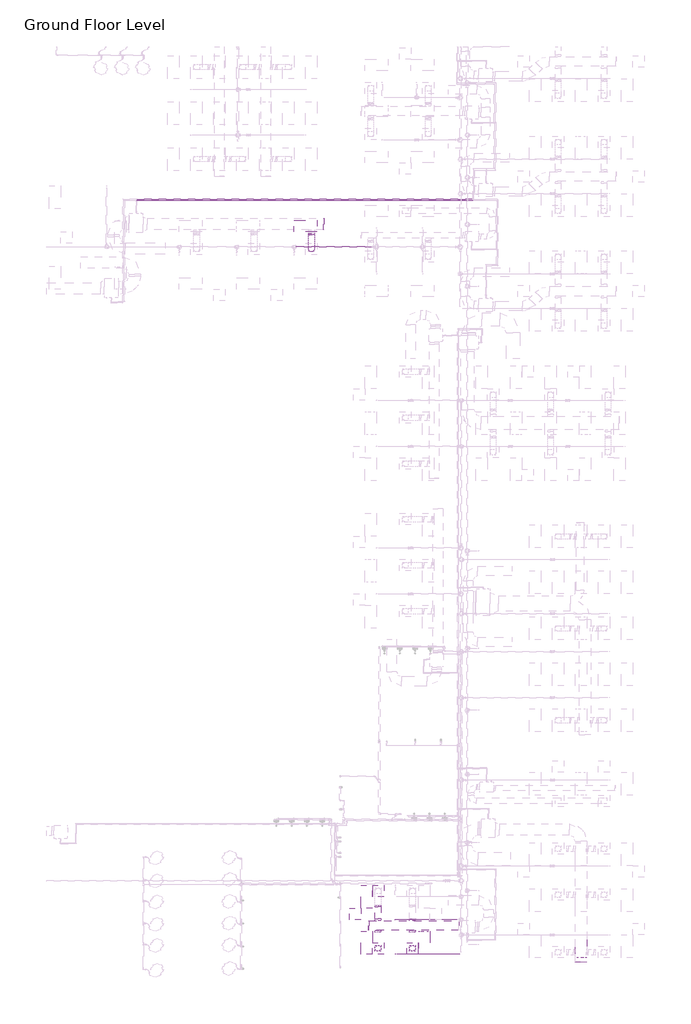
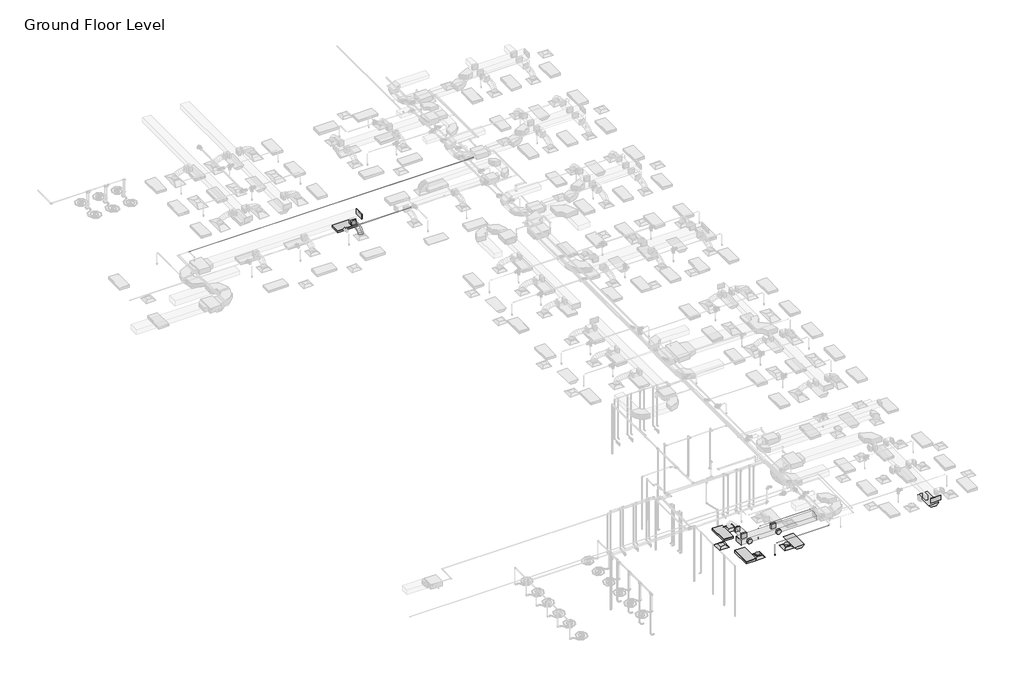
# One storey, part 14 of 75: 11 duct fittings, 7 pipe segments, 5 duct segments, 5 light fixtures, 4 air terminals, 2 fire suppression terminals.
"""IFC4 building model written with IfcOpenShell, lengths in millimetres."""

from ifc_helpers import new_model, si_unit, point, frame, frame_2d, origin, place, context, project, spatial, polyline, circle_curve, ellipse_curve, trimmed, segment, composite_curve, outline, extrude, transform, mapped, element, save
from ifc_brep_helpers import plane_surface, cylinder_surface, advanced_brep
from components import m_return_diffuser_600_x_600_face_300_x_300_connection_ff221211, m_rectangular_endcap_standard_72d4d00d, m_rectangular_endcap_standard_0f0ff112, m_rectangular_takeoff_standard_2be5eba1, m_rectangular_to_round_transition_angle_45_degree_641efff0, m_round_takeoff_standard_603b0510, m_sprinkler_dry_pendent_hosted_15_mm_dry_pendent_9bda8e11, m_emergency_recessed_lighting_fixture_600x1200_277_5b10b25d, m_troffer_light_parabolic_rectangular1_0600x1200mm_4_lamp_86473d4a

model = new_model("IFC4")

# Units and contexts
model_context = context("Model", 3, world=origin())
ifc_project = project(units=[si_unit("LENGTHUNIT", "METRE", prefix="MILLI")], contexts=[model_context])

# Site, building, storey
site = spatial("IfcSite", under=ifc_project)
building = spatial("IfcBuilding", under=site)
storey = spatial("IfcBuildingStorey", under=building, Name="Ground Floor Level", Elevation=900.0)

# Air terminals
placement = place(None, origin())
m_return_diffuser_600_x_600_face_300_x_300_connection_shape = m_return_diffuser_600_x_600_face_300_x_300_connection_ff221211(model_context)
element("IfcAirTerminal", 1, ObjectType="M_Return Diffuser : 600 x 600 Face 300 x 300 Connection", at=placement, inside=storey, context=model_context, shape_type="MappedRepresentation", body=[
    mapped(m_return_diffuser_600_x_600_face_300_x_300_connection_shape, transform((142.7672394, -37764.7846466, 3650.0), x_axis=(1.0, 0.0, 0.0), y_axis=(0.0, 1.0, 0.0), z_axis=(0.0, 0.0, 1.0))),
])
element("IfcAirTerminal", 2, ObjectType="M_Supply Diffuser : 600 x 600 Face 300 x 300 Connection", at=placement, inside=storey, context=model_context, shape_type="MappedRepresentation", body=[
    mapped(m_return_diffuser_600_x_600_face_300_x_300_connection_shape, transform((1342.7672394, -36564.7846466, 3650.0), x_axis=(1.0, 0.0, 0.0), y_axis=(0.0, 1.0, 0.0), z_axis=(0.0, 0.0, 1.0))),
])
element("IfcAirTerminal", 3, ObjectType="M_Supply Diffuser : 600 x 600 Face 300 x 300 Connection", at=placement, inside=storey, context=model_context, shape_type="MappedRepresentation", body=[
    mapped(m_return_diffuser_600_x_600_face_300_x_300_connection_shape, transform((1342.7672394, -39564.7846466, 3650.0), x_axis=(1.0, 0.0, 0.0), y_axis=(0.0, 1.0, 0.0), z_axis=(0.0, 0.0, 1.0))),
])
element("IfcAirTerminal", 4, ObjectType="M_Supply Diffuser : 600 x 600 Face 300 x 300 Connection", at=placement, inside=storey, context=model_context, shape_type="MappedRepresentation", body=[
    mapped(m_return_diffuser_600_x_600_face_300_x_300_connection_shape, transform((3142.7672394, -39564.7846466, 3650.0), x_axis=(1.0, 0.0, 0.0), y_axis=(0.0, 1.0, 0.0), z_axis=(0.0, 0.0, 1.0))),
])

# Duct fittings
m_rectangular_endcap_standard_shape = m_rectangular_endcap_standard_72d4d00d(model_context)
element("IfcDuctFitting", 5, ObjectType="M_Rectangular Endcap : Standard", at=placement, inside=storey, context=model_context, shape_type="MappedRepresentation", body=[
    mapped(m_rectangular_endcap_standard_shape, transform((877.3672394, -38372.6128682, 4100.0), x_axis=(-0.9999999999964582, 0.0, -2.6615447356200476e-06), y_axis=(0.0, -1.0000000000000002, 0.0), z_axis=(-2.6615447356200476e-06, 0.0, 0.9999999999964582))),
])
m_rectangular_endcap_standard_2_shape = m_rectangular_endcap_standard_0f0ff112(model_context)
element("IfcDuctFitting", 6, ObjectType="M_Rectangular Endcap : Standard", at=placement, inside=storey, context=model_context, shape_type="MappedRepresentation", body=[
    mapped(m_rectangular_endcap_standard_2_shape, transform((-1501.8327605, -1768.2846466, 4099.9873731), x_axis=(0.9999999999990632, 0.0, -1.368824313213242e-06), y_axis=(0.0, 1.0, 0.0), z_axis=(1.368824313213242e-06, 0.0, 0.9999999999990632))),
])
element("IfcDuctFitting", 7, ObjectType="M_Rectangular Endcap : Standard", at=placement, inside=storey, context=model_context, shape_type="MappedRepresentation", body=[
    mapped(m_rectangular_endcap_standard_2_shape, transform((11933.8644074, -40264.7726336, 4099.9875), x_axis=(0.0, -1.0, 0.0), y_axis=(1.0, 0.0, 0.0), z_axis=(0.0, 0.0, 1.0))),
])
m_rectangular_takeoff_standard_shape = m_rectangular_takeoff_standard_2be5eba1(model_context)
element("IfcDuctFitting", 8, ObjectType="M_Rectangular Takeoff : Standard", at=placement, inside=storey, context=model_context, shape_type="MappedRepresentation", body=[
    mapped(m_rectangular_takeoff_standard_shape, transform((3142.7672394, -38122.6128682, 4100.0), x_axis=(0.0, 1.0, 0.0), y_axis=(1.0, 0.0, 0.0), z_axis=(0.0, 0.0, -1.0))),
])
element("IfcDuctFitting", 9, ObjectType="M_Rectangular Takeoff : Standard", at=placement, inside=storey, context=model_context, shape_type="MappedRepresentation", body=[
    mapped(m_rectangular_takeoff_standard_shape, transform((1342.7672394, -38122.6128682, 4100.0), x_axis=(0.0, 1.0, 0.0), y_axis=(1.0, 0.0, 0.0), z_axis=(0.0, 0.0, -1.0))),
])
m_rectangular_to_round_transition_angle_45_degree_shape = m_rectangular_to_round_transition_angle_45_degree_641efff0(model_context)
element("IfcDuctFitting", 10, ObjectType="M_Rectangular to Round Transition - Angle : 45 Degree", at=placement, inside=storey, context=model_context, shape_type="MappedRepresentation", body=[
    mapped(m_rectangular_to_round_transition_angle_45_degree_shape, transform((-2137.2327605, -2237.4369582, 4099.9882429), x_axis=(0.0, -1.0, 0.0), y_axis=(1.0, 0.0, 0.0), z_axis=(0.0, 0.0, 1.0))),
])
element("IfcDuctFitting", 11, ObjectType="M_Rectangular to Round Transition - Angle : 45 Degree", at=placement, inside=storey, context=model_context, shape_type="MappedRepresentation", body=[
    mapped(m_rectangular_to_round_transition_angle_45_degree_shape, transform((1342.7672394, -39564.7846466, 3751.6), x_axis=(0.0, 0.0, 1.0), y_axis=(-1.0, 0.0, 0.0), z_axis=(0.0, -1.0, 0.0))),
])
element("IfcDuctFitting", 12, ObjectType="M_Rectangular to Round Transition - Angle : 45 Degree", at=placement, inside=storey, context=model_context, shape_type="MappedRepresentation", body=[
    mapped(m_rectangular_to_round_transition_angle_45_degree_shape, transform((3142.7672394, -39564.7846466, 3751.6), x_axis=(0.0, 0.0, 1.0), y_axis=(-1.0, 0.0, 0.0), z_axis=(0.0, -1.0, 0.0))),
])
element("IfcDuctFitting", 13, ObjectType="M_Rectangular to Round Transition - Angle : 45 Degree", at=placement, inside=storey, context=model_context, shape_type="MappedRepresentation", body=[
    mapped(m_rectangular_to_round_transition_angle_45_degree_shape, transform((1342.7672394, -37392.1205779, 4100.0), x_axis=(0.0, 1.0, 0.0), y_axis=(-1.0, 0.0, 0.0), z_axis=(0.0, 0.0, 1.0))),
])
m_round_takeoff_standard_shape = m_round_takeoff_standard_603b0510(model_context)
element("IfcDuctFitting", 14, ObjectType="M_Round Takeoff : Standard", at=placement, inside=storey, context=model_context, shape_type="MappedRepresentation", body=[
    mapped(m_round_takeoff_standard_shape, transform((1342.7672394, -38622.6128682, 4100.0), x_axis=(0.0, -1.0, 0.0), y_axis=(-1.0, 0.0, 0.0), z_axis=(0.0, 0.0, -1.0))),
])
element("IfcDuctFitting", 15, ObjectType="M_Round Takeoff : Standard", at=placement, inside=storey, context=model_context, shape_type="MappedRepresentation", body=[
    mapped(m_round_takeoff_standard_shape, transform((3142.7672394, -38622.6128682, 4100.0), x_axis=(0.0, -1.0, 0.0), y_axis=(-1.0, 0.0, 0.0), z_axis=(0.0, 0.0, -1.0))),
])

# Duct segments
element("IfcDuctSegment", 16, ObjectType="Flex - Round", at=placement, inside=storey, context=model_context, shape_type="AdvancedBrep", body=[
    advanced_brep(
    [(-1987.2327605, -3064.7846466, 3826.6), (-2137.2327605, -3214.7846466, 3826.6), (-2287.2327605, -3064.7846466, 3826.6), (-2137.2327605, -2914.7846466, 3826.6), (-1987.2327605, -3064.7846466, 3857.9382049), (-2137.2327605, -3214.7846466, 3883.5820304), (-2287.2327605, -3064.7846466, 3857.9382049), (-2137.2327605, -2914.7846466, 3832.2943795), (-1987.2327605, -3047.768388, 3906.2507872), (-2137.2327605, -3181.5056265, 3978.0678652), (-2287.2327605, -3047.768388, 3906.2507872), (-2137.2327605, -2914.0311496, 3834.4337093), (-1987.2327605, -3000.5836201, 3968.710775), (-2137.2327605, -3104.787507, 4079.622096), (-2287.2327605, -3000.5836201, 3968.710775), (-2137.2327605, -2896.3797333, 3857.7994541), (-1987.2327605, -2929.0263545, 4016.0680579), (-2137.2327605, -2997.957239, 4150.3233892), (-2287.2327605, -2929.0263545, 4016.0680579), (-2137.2327605, -2860.09547, 3881.8127266), (-1987.2327605, -2838.8926027, 4050.4107303), (-2137.2327605, -2882.4498996, 4194.3338808), (-2287.2327605, -2838.8926027, 4050.4107303), (-2137.2327605, -2795.3353058, 3906.4875799), (-1987.2327605, -2735.9783764, 4073.8268868), (-2137.2327605, -2762.5360145, 4221.6179832), (-2287.2327605, -2735.9783764, 4073.8268868), (-2137.2327605, -2709.4207382, 3926.0357904), (-1987.2327605, -2626.0796872, 4088.4046218), (-2137.2327605, -2641.2277335, 4237.7091667), (-2287.2327605, -2626.0796872, 4088.4046218), (-2137.2327605, -2610.9316408, 3939.1000769), (-1987.2327605, -2514.9925467, 4096.2320299), (-2137.2327605, -2522.4956529, 4246.0752516), (-2287.2327605, -2514.9925467, 4096.2320299), (-2137.2327605, -2507.4894404, 3946.3888082), (-1987.2327605, -2408.5129665, 4099.3972054), (-2137.2327605, -2411.2031539, 4249.3834943), (-2287.2327605, -2408.5129665, 4099.3972054), (-2137.2327605, -2405.822779, 3949.4109165), (-1987.2327605, -2312.4369582, 4099.9882429), (-2137.2327605, -2311.5142102, 3949.9910811), (-2287.2327605, -2312.4369582, 4099.9882429), (-2137.2327605, -2313.3597063, 4249.9854047)],
    [
        (0, 1, circle_curve(frame((-2137.2327605, -3064.7846466, 3826.6), z_axis=(0.0, 0.0, -1.0), x_axis=(1.0, 0.0, 0.0)), 150.0)),
        (1, 2, circle_curve(frame((-2137.2327605, -3064.7846466, 3826.6), z_axis=(0.0, 0.0, -1.0), x_axis=(1.0, 0.0, 0.0)), 150.0)),
        (2, 3, circle_curve(frame((-2137.2327605, -3064.7846466, 3826.6), z_axis=(0.0, 0.0, -1.0), x_axis=(1.0, 0.0, 0.0)), 150.0)),
        (3, 0, circle_curve(frame((-2137.2327605, -3064.7846466, 3826.6), z_axis=(0.0, 0.0, -1.0), x_axis=(1.0, 0.0, 0.0)), 150.0)),
        (0, 4),
        (4, 5, ellipse_curve(frame((-2137.2327605, -3064.7846466, 3857.9382049), z_axis=(0.0, -0.1685139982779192, -0.9856992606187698), x_axis=(0.0, 0.9856992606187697, -0.1685139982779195)), 152.1762326, 150.0)),
        (5, 1),
        (5, 6, ellipse_curve(frame((-2137.2327605, -3064.7846466, 3857.9382049), z_axis=(0.0, -0.1685139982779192, -0.9856992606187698), x_axis=(0.0, 0.9856992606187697, -0.1685139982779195)), 152.1762326, 150.0)),
        (6, 2),
        (6, 7, ellipse_curve(frame((-2137.2327605, -3064.7846466, 3857.9382049), z_axis=(0.0, -0.1685139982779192, -0.9856992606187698), x_axis=(0.0, 0.9856992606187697, -0.1685139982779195)), 152.1762326, 150.0)),
        (7, 3),
        (7, 4, ellipse_curve(frame((-2137.2327605, -3064.7846466, 3857.9382049), z_axis=(0.0, -0.1685139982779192, -0.9856992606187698), x_axis=(0.0, 0.9856992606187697, -0.1685139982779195)), 152.1762326, 150.0)),
        (4, 8),
        (8, 9, ellipse_curve(frame((-2137.2327605, -3047.768388, 3906.2507872), z_axis=(0.0, -0.4731022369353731, -0.8810075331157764), x_axis=(0.0, 0.8810075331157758, -0.47310223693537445)), 151.8003348, 150.0)),
        (9, 5),
        (9, 10, ellipse_curve(frame((-2137.2327605, -3047.768388, 3906.2507872), z_axis=(0.0, -0.4731022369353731, -0.8810075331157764), x_axis=(0.0, 0.8810075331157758, -0.47310223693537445)), 151.8003348, 150.0)),
        (10, 6),
        (10, 11, ellipse_curve(frame((-2137.2327605, -3047.768388, 3906.2507872), z_axis=(0.0, -0.4731022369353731, -0.8810075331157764), x_axis=(0.0, 0.8810075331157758, -0.47310223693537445)), 151.8003348, 150.0)),
        (11, 7),
        (11, 8, ellipse_curve(frame((-2137.2327605, -3047.768388, 3906.2507872), z_axis=(0.0, -0.4731022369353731, -0.8810075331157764), x_axis=(0.0, 0.8810075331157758, -0.47310223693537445)), 151.8003348, 150.0)),
        (8, 12),
        (12, 13, ellipse_curve(frame((-2137.2327605, -3000.5836201, 3968.710775), z_axis=(0.0, -0.728800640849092, -0.6847259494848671), x_axis=(0.0, 0.6847259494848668, -0.7288006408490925)), 152.1833472, 150.0)),
        (13, 9),
        (13, 14, ellipse_curve(frame((-2137.2327605, -3000.5836201, 3968.710775), z_axis=(0.0, -0.728800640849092, -0.6847259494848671), x_axis=(0.0, 0.6847259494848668, -0.7288006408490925)), 152.1833472, 150.0)),
        (14, 10),
        (14, 15, ellipse_curve(frame((-2137.2327605, -3000.5836201, 3968.710775), z_axis=(0.0, -0.728800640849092, -0.6847259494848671), x_axis=(0.0, 0.6847259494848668, -0.7288006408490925)), 152.1833472, 150.0)),
        (15, 11),
        (15, 12, ellipse_curve(frame((-2137.2327605, -3000.5836201, 3968.710775), z_axis=(0.0, -0.728800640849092, -0.6847259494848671), x_axis=(0.0, 0.6847259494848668, -0.7288006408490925)), 152.1833472, 150.0)),
        (12, 16),
        (16, 17, ellipse_curve(frame((-2137.2327605, -2929.0263545, 4016.0680579), z_axis=(0.0, -0.8895967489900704, -0.456746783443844), x_axis=(0.0, 0.45674678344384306, -0.8895967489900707)), 150.917066, 150.0)),
        (17, 13),
        (17, 18, ellipse_curve(frame((-2137.2327605, -2929.0263545, 4016.0680579), z_axis=(0.0, -0.8895967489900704, -0.456746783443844), x_axis=(0.0, 0.45674678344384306, -0.8895967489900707)), 150.917066, 150.0)),
        (18, 14),
        (18, 19, ellipse_curve(frame((-2137.2327605, -2929.0263545, 4016.0680579), z_axis=(0.0, -0.8895967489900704, -0.456746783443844), x_axis=(0.0, 0.45674678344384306, -0.8895967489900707)), 150.917066, 150.0)),
        (19, 15),
        (19, 16, ellipse_curve(frame((-2137.2327605, -2929.0263545, 4016.0680579), z_axis=(0.0, -0.8895967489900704, -0.456746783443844), x_axis=(0.0, 0.45674678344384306, -0.8895967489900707)), 150.917066, 150.0)),
        (16, 20),
        (20, 21, ellipse_curve(frame((-2137.2327605, -2838.8926027, 4050.4107303), z_axis=(0.0, -0.9571272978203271, -0.2896676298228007), x_axis=(0.0, 0.28966762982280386, -0.957127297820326)), 150.369915, 150.0)),
        (21, 17),
        (21, 22, ellipse_curve(frame((-2137.2327605, -2838.8926027, 4050.4107303), z_axis=(0.0, -0.9571272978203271, -0.2896676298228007), x_axis=(0.0, 0.28966762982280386, -0.957127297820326)), 150.369915, 150.0)),
        (22, 18),
        (22, 23, ellipse_curve(frame((-2137.2327605, -2838.8926027, 4050.4107303), z_axis=(0.0, -0.9571272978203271, -0.2896676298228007), x_axis=(0.0, 0.28966762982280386, -0.957127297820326)), 150.369915, 150.0)),
        (23, 19),
        (23, 20, ellipse_curve(frame((-2137.2327605, -2838.8926027, 4050.4107303), z_axis=(0.0, -0.9571272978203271, -0.2896676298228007), x_axis=(0.0, 0.28966762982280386, -0.957127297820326)), 150.369915, 150.0)),
        (20, 24),
        (24, 25, ellipse_curve(frame((-2137.2327605, -2735.9783764, 4073.8268868), z_axis=(0.0, -0.9842352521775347, -0.1768642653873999), x_axis=(0.0, 0.1768642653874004, -0.9842352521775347)), 150.1583042, 150.0)),
        (25, 21),
        (25, 26, ellipse_curve(frame((-2137.2327605, -2735.9783764, 4073.8268868), z_axis=(0.0, -0.9842352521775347, -0.1768642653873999), x_axis=(0.0, 0.1768642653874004, -0.9842352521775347)), 150.1583042, 150.0)),
        (26, 22),
        (26, 27, ellipse_curve(frame((-2137.2327605, -2735.9783764, 4073.8268868), z_axis=(0.0, -0.9842352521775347, -0.1768642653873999), x_axis=(0.0, 0.1768642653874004, -0.9842352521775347)), 150.1583042, 150.0)),
        (27, 23),
        (27, 24, ellipse_curve(frame((-2137.2327605, -2735.9783764, 4073.8268868), z_axis=(0.0, -0.9842352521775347, -0.1768642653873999), x_axis=(0.0, 0.1768642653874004, -0.9842352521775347)), 150.1583042, 150.0)),
        (24, 28),
        (28, 29, ellipse_curve(frame((-2137.2327605, -2626.0796872, 4088.4046218), z_axis=(0.0, -0.9948925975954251, -0.10093918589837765), x_axis=(0.0, 0.10093918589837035, -0.9948925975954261)), 150.071018, 150.0)),
        (29, 25),
        (29, 30, ellipse_curve(frame((-2137.2327605, -2626.0796872, 4088.4046218), z_axis=(0.0, -0.9948925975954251, -0.10093918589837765), x_axis=(0.0, 0.10093918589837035, -0.9948925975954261)), 150.071018, 150.0)),
        (30, 26),
        (30, 31, ellipse_curve(frame((-2137.2327605, -2626.0796872, 4088.4046218), z_axis=(0.0, -0.9948925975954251, -0.10093918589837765), x_axis=(0.0, 0.10093918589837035, -0.9948925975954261)), 150.071018, 150.0)),
        (31, 27),
        (31, 28, ellipse_curve(frame((-2137.2327605, -2626.0796872, 4088.4046218), z_axis=(0.0, -0.9948925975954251, -0.10093918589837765), x_axis=(0.0, 0.10093918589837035, -0.9948925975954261)), 150.071018, 150.0)),
        (28, 32),
        (32, 33, ellipse_curve(frame((-2137.2327605, -2514.9925467, 4096.2320299), z_axis=(0.0, -0.9987486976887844, -0.050010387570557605), x_axis=(0.0, 0.05001038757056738, -0.9987486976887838)), 150.0309558, 150.0)),
        (33, 29),
        (33, 34, ellipse_curve(frame((-2137.2327605, -2514.9925467, 4096.2320299), z_axis=(0.0, -0.9987486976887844, -0.050010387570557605), x_axis=(0.0, 0.05001038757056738, -0.9987486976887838)), 150.0309558, 150.0)),
        (34, 30),
        (34, 35, ellipse_curve(frame((-2137.2327605, -2514.9925467, 4096.2320299), z_axis=(0.0, -0.9987486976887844, -0.050010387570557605), x_axis=(0.0, 0.05001038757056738, -0.9987486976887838)), 150.0309558, 150.0)),
        (35, 31),
        (35, 32, ellipse_curve(frame((-2137.2327605, -2514.9925467, 4096.2320299), z_axis=(0.0, -0.9987486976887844, -0.050010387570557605), x_axis=(0.0, 0.05001038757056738, -0.9987486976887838)), 150.0309558, 150.0)),
        (32, 36),
        (36, 37, ellipse_curve(frame((-2137.2327605, -2408.5129665, 4099.3972054), z_axis=(0.0, -0.9998391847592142, -0.017933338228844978), x_axis=(0.0, 0.017933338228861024, -0.9998391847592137)), 150.0104128, 150.0)),
        (37, 33),
        (37, 38, ellipse_curve(frame((-2137.2327605, -2408.5129665, 4099.3972054), z_axis=(0.0, -0.9998391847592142, -0.017933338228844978), x_axis=(0.0, 0.017933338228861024, -0.9998391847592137)), 150.0104128, 150.0)),
        (38, 34),
        (38, 39, ellipse_curve(frame((-2137.2327605, -2408.5129665, 4099.3972054), z_axis=(0.0, -0.9998391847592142, -0.017933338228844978), x_axis=(0.0, 0.017933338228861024, -0.9998391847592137)), 150.0104128, 150.0)),
        (39, 35),
        (39, 36, ellipse_curve(frame((-2137.2327605, -2408.5129665, 4099.3972054), z_axis=(0.0, -0.9998391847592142, -0.017933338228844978), x_axis=(0.0, 0.017933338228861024, -0.9998391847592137)), 150.0104128, 150.0)),
        (40, 41, circle_curve(frame((-2137.2327605, -2312.4369582, 4099.9882429), z_axis=(0.0, 0.9999810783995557, 0.006151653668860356), x_axis=(1.0, 0.0, 0.0)), 150.0)),
        (41, 42, circle_curve(frame((-2137.2327605, -2312.4369582, 4099.9882429), z_axis=(0.0, 0.9999810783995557, 0.006151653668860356), x_axis=(1.0, 0.0, 0.0)), 150.0)),
        (42, 43, circle_curve(frame((-2137.2327605, -2312.4369582, 4099.9882429), z_axis=(0.0, 0.9999810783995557, 0.006151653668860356), x_axis=(1.0, 0.0, 0.0)), 150.0)),
        (43, 40, circle_curve(frame((-2137.2327605, -2312.4369582, 4099.9882429), z_axis=(0.0, 0.9999810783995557, 0.006151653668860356), x_axis=(1.0, 0.0, 0.0)), 150.0)),
        (36, 40),
        (43, 37),
        (42, 38),
        (41, 39),
    ],
    [
        plane_surface(frame((-2137.2327605, -3214.7846466, 3826.6), z_axis=(0.0, 0.0, -1.0), x_axis=(1.0, 0.0, 0.0))),
        cylinder_surface(frame((-2137.2327605, -3064.7846466, 3826.6), z_axis=(0.0, 0.0, -1.0), x_axis=(1.0, 0.0, 0.0)), 150.0),
        cylinder_surface(frame((-2137.2327605, -3064.7846466, 3857.9382049), z_axis=(0.0, -0.33220824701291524, -0.9432060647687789), x_axis=(1.0, 0.0, 0.0)), 150.0),
        cylinder_surface(frame((-2137.2327605, -3047.768388, 3906.2507872), z_axis=(0.0, -0.6027743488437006, -0.7979117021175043), x_axis=(1.0, 0.0, 0.0)), 150.0),
        cylinder_surface(frame((-2137.2327605, -3000.5836201, 3968.710775), z_axis=(0.0, -0.83391498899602, -0.5518929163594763), x_axis=(1.0, 0.0, 0.0)), 150.0),
        cylinder_surface(frame((-2137.2327605, -2929.0263545, 4016.0680579), z_axis=(0.0, -0.9344670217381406, -0.3560496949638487), x_axis=(1.0, 0.0, 0.0)), 150.0),
        cylinder_surface(frame((-2137.2327605, -2838.8926027, 4050.4107303), z_axis=(0.0, -0.9750784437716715, -0.2218603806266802), x_axis=(1.0, 0.0, 0.0)), 150.0),
        cylinder_surface(frame((-2137.2327605, -2735.9783764, 4073.8268868), z_axis=(0.0, -0.9913168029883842, -0.13149523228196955), x_axis=(1.0, 0.0, 0.0)), 150.0),
        cylinder_surface(frame((-2137.2327605, -2626.0796872, 4088.4046218), z_axis=(0.0, -0.9975267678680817, -0.07028760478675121), x_axis=(1.0, 0.0, 0.0)), 150.0),
        cylinder_surface(frame((-2137.2327605, -2514.9925467, 4096.2320299), z_axis=(0.0, -0.9995584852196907, -0.02971253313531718), x_axis=(1.0, 0.0, 0.0)), 150.0),
        plane_surface(frame((-2137.2327605, -2313.3597063, 4249.9854047), z_axis=(0.0, 0.9999810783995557, 0.006151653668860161), x_axis=(1.0, 0.0, 0.0))),
        cylinder_surface(frame((-2137.2327605, -2408.5129665, 4099.3972054), z_axis=(0.0, -0.9999810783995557, -0.006151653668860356), x_axis=(1.0, 0.0, 0.0)), 150.0),
    ],
    [
        (0, [[1, 2, 3, 4]]),
        (1, [[-1, 5, 6, 7]]),
        (1, [[-2, -7, 8, 9]]),
        (1, [[-3, -9, 10, 11]]),
        (1, [[-4, -11, 12, -5]]),
        (2, [[-6, 13, 14, 15]]),
        (2, [[-8, -15, 16, 17]]),
        (2, [[-10, -17, 18, 19]]),
        (2, [[-12, -19, 20, -13]]),
        (3, [[-14, 21, 22, 23]]),
        (3, [[-16, -23, 24, 25]]),
        (3, [[-18, -25, 26, 27]]),
        (3, [[-20, -27, 28, -21]]),
        (4, [[-22, 29, 30, 31]]),
        (4, [[-24, -31, 32, 33]]),
        (4, [[-26, -33, 34, 35]]),
        (4, [[-28, -35, 36, -29]]),
        (5, [[-30, 37, 38, 39]]),
        (5, [[-32, -39, 40, 41]]),
        (5, [[-34, -41, 42, 43]]),
        (5, [[-36, -43, 44, -37]]),
        (6, [[-38, 45, 46, 47]]),
        (6, [[-40, -47, 48, 49]]),
        (6, [[-42, -49, 50, 51]]),
        (6, [[-44, -51, 52, -45]]),
        (7, [[-46, 53, 54, 55]]),
        (7, [[-48, -55, 56, 57]]),
        (7, [[-50, -57, 58, 59]]),
        (7, [[-52, -59, 60, -53]]),
        (8, [[-54, 61, 62, 63]]),
        (8, [[-56, -63, 64, 65]]),
        (8, [[-58, -65, 66, 67]]),
        (8, [[-60, -67, 68, -61]]),
        (9, [[-62, 69, 70, 71]]),
        (9, [[-64, -71, 72, 73]]),
        (9, [[-66, -73, 74, 75]]),
        (9, [[-68, -75, 76, -69]]),
        (10, [[77, 78, 79, 80]]),
        (11, [[-70, 81, -80, 82]]),
        (11, [[-72, -82, -79, 83]]),
        (11, [[-74, -83, -78, 84]]),
        (11, [[-76, -84, -77, -81]]),
    ],
),
])
element("IfcDuctSegment", 17, ObjectType="Flex - Round", at=placement, inside=storey, context=model_context, shape_type="AdvancedBrep", body=[
    advanced_brep(
    [(1492.7672394, -39564.7846466, 3826.6), (1342.7672394, -39714.7846466, 3826.6), (1192.7672394, -39564.7846466, 3826.6), (1342.7672394, -39414.7846466, 3826.6), (1492.7672394, -39564.7846466, 3860.5958413), (1342.7672394, -39414.7846466, 3830.2822637), (1192.7672394, -39564.7846466, 3860.5958413), (1342.7672394, -39714.7846466, 3890.9094188)],
    [
        (0, 1, circle_curve(frame((1342.7672394, -39564.7846466, 3826.6), z_axis=(0.0, 0.0, -1.0), x_axis=(1.0, 0.0, 0.0)), 150.0)),
        (1, 2, circle_curve(frame((1342.7672394, -39564.7846466, 3826.6), z_axis=(0.0, 0.0, -1.0), x_axis=(1.0, 0.0, 0.0)), 150.0)),
        (2, 3, circle_curve(frame((1342.7672394, -39564.7846466, 3826.6), z_axis=(0.0, 0.0, -1.0), x_axis=(1.0, 0.0, 0.0)), 150.0)),
        (3, 0, circle_curve(frame((1342.7672394, -39564.7846466, 3826.6), z_axis=(0.0, 0.0, -1.0), x_axis=(1.0, 0.0, 0.0)), 150.0)),
        (4, 5, ellipse_curve(frame((1342.7672394, -39564.7846466, 3860.5958413), z_axis=(0.0, 0.19808602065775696, 0.9801846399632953), x_axis=(0.0, 0.9801846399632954, -0.19808602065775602)), 153.0323919, 150.0)),
        (5, 6, ellipse_curve(frame((1342.7672394, -39564.7846466, 3860.5958413), z_axis=(0.0, 0.19808602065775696, 0.9801846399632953), x_axis=(0.0, 0.9801846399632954, -0.19808602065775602)), 153.0323919, 150.0)),
        (6, 7, ellipse_curve(frame((1342.7672394, -39564.7846466, 3860.5958413), z_axis=(0.0, 0.19808602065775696, 0.9801846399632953), x_axis=(0.0, 0.9801846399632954, -0.19808602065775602)), 153.0323919, 150.0)),
        (7, 4, ellipse_curve(frame((1342.7672394, -39564.7846466, 3860.5958413), z_axis=(0.0, 0.19808602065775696, 0.9801846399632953), x_axis=(0.0, 0.9801846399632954, -0.19808602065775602)), 153.0323919, 150.0)),
        (0, 4),
        (7, 1),
        (6, 2),
        (5, 3),
    ],
    [
        plane_surface(frame((1342.7672394, -39714.7846466, 3826.6), z_axis=(0.0, 0.0, -1.0), x_axis=(1.0, 0.0, 0.0))),
        plane_surface(frame((1492.7672394, -39564.7846466, 3860.5958413), z_axis=(0.0, 0.19808602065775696, 0.9801846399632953), x_axis=(0.0, 0.9801846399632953, -0.19808602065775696))),
        cylinder_surface(frame((1342.7672394, -39564.7846466, 3826.6), z_axis=(0.0, 0.0, -1.0), x_axis=(1.0, 0.0, 0.0)), 150.0),
    ],
    [
        (0, [[1, 2, 3, 4]]),
        (1, [[5, 6, 7, 8]]),
        (2, [[-1, 9, -8, 10]]),
        (2, [[-2, -10, -7, 11]]),
        (2, [[-3, -11, -6, 12]]),
        (2, [[-4, -12, -5, -9]]),
    ],
),
])
element("IfcDuctSegment", 18, ObjectType="Flex - Round", at=placement, inside=storey, context=model_context, shape_type="AdvancedBrep", body=[
    advanced_brep(
    [(3292.7672394, -39564.7846466, 3826.6), (3142.7672394, -39714.7846466, 3826.6), (2992.7672394, -39564.7846466, 3826.6), (3142.7672394, -39414.7846466, 3826.6), (3292.7672394, -39564.7846466, 3860.5958413), (3142.7672394, -39414.7846466, 3830.2822637), (2992.7672394, -39564.7846466, 3860.5958413), (3142.7672394, -39714.7846466, 3890.9094188)],
    [
        (0, 1, circle_curve(frame((3142.7672394, -39564.7846466, 3826.6), z_axis=(0.0, 0.0, -1.0), x_axis=(1.0, 0.0, 0.0)), 150.0)),
        (1, 2, circle_curve(frame((3142.7672394, -39564.7846466, 3826.6), z_axis=(0.0, 0.0, -1.0), x_axis=(1.0, 0.0, 0.0)), 150.0)),
        (2, 3, circle_curve(frame((3142.7672394, -39564.7846466, 3826.6), z_axis=(0.0, 0.0, -1.0), x_axis=(1.0, 0.0, 0.0)), 150.0)),
        (3, 0, circle_curve(frame((3142.7672394, -39564.7846466, 3826.6), z_axis=(0.0, 0.0, -1.0), x_axis=(1.0, 0.0, 0.0)), 150.0)),
        (4, 5, ellipse_curve(frame((3142.7672394, -39564.7846466, 3860.5958413), z_axis=(0.0, 0.19808602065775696, 0.9801846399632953), x_axis=(0.0, 0.9801846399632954, -0.19808602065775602)), 153.0323919, 150.0)),
        (5, 6, ellipse_curve(frame((3142.7672394, -39564.7846466, 3860.5958413), z_axis=(0.0, 0.19808602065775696, 0.9801846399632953), x_axis=(0.0, 0.9801846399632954, -0.19808602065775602)), 153.0323919, 150.0)),
        (6, 7, ellipse_curve(frame((3142.7672394, -39564.7846466, 3860.5958413), z_axis=(0.0, 0.19808602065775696, 0.9801846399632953), x_axis=(0.0, 0.9801846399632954, -0.19808602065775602)), 153.0323919, 150.0)),
        (7, 4, ellipse_curve(frame((3142.7672394, -39564.7846466, 3860.5958413), z_axis=(0.0, 0.19808602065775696, 0.9801846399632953), x_axis=(0.0, 0.9801846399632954, -0.19808602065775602)), 153.0323919, 150.0)),
        (0, 4),
        (7, 1),
        (6, 2),
        (5, 3),
    ],
    [
        plane_surface(frame((3142.7672394, -39714.7846466, 3826.6), z_axis=(0.0, 0.0, -1.0), x_axis=(1.0, 0.0, 0.0))),
        plane_surface(frame((3292.7672394, -39564.7846466, 3860.5958413), z_axis=(0.0, 0.19808602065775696, 0.9801846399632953), x_axis=(0.0, 0.9801846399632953, -0.19808602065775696))),
        cylinder_surface(frame((3142.7672394, -39564.7846466, 3826.6), z_axis=(0.0, 0.0, -1.0), x_axis=(1.0, 0.0, 0.0)), 150.0),
    ],
    [
        (0, [[1, 2, 3, 4]]),
        (1, [[5, 6, 7, 8]]),
        (2, [[-1, 9, -8, 10]]),
        (2, [[-2, -10, -7, 11]]),
        (2, [[-3, -11, -6, 12]]),
        (2, [[-4, -12, -5, -9]]),
    ],
),
])
element("IfcDuctSegment", 19, ObjectType="Radius Elbows / Taps", at=placement, inside=storey, context=model_context, shape_type="SweptSolid", body=[
    extrude(outline(polyline([(5573.8880106, -38122.6128682), (5573.8880106, -38622.6128682), (877.3672394, -38622.6128682), (877.3672394, -38122.6128682), (5573.8880106, -38122.6128682)])), frame((0.0, 0.0, 3950.0), z_axis=(0.0, 0.0, 1.0), x_axis=(1.0, 0.0, 0.0)), (0.0, 0.0, 1.0), 300.0),
])
element("IfcDuctSegment", 20, ObjectType="Radius Elbows / Taps", at=placement, inside=storey, context=model_context, shape_type="SweptSolid", body=[
    extrude(outline(polyline([(1492.7672394, -38021.0128682), (1192.7672394, -38021.0128682), (1192.7672394, -37392.1205779), (1492.7672394, -37392.1205779), (1492.7672394, -38021.0128682)])), frame((0.0, 0.0, 3950.0), z_axis=(0.0, 0.0, 1.0), x_axis=(1.0, 0.0, 0.0)), (0.0, 0.0, 1.0), 300.0),
])

# Fire suppression terminals
m_sprinkler_dry_pendent_hosted_15_mm_dry_pendent_shape = m_sprinkler_dry_pendent_hosted_15_mm_dry_pendent_9bda8e11(model_context)
element("IfcFireSuppressionTerminal", 21, ObjectType="M_Sprinkler - Dry - Pendent - Hosted : 15 mm Dry Pendent", at=placement, inside=storey, context=model_context, shape_type="MappedRepresentation", body=[
    mapped(m_sprinkler_dry_pendent_hosted_15_mm_dry_pendent_shape, transform((2242.7672394, -39864.7846466, 3650.0), x_axis=(1.0, 0.0, 0.0), y_axis=(0.0, -1.0, 0.0), z_axis=(0.0, 0.0, -1.0))),
])
element("IfcFireSuppressionTerminal", 22, ObjectType="M_Sprinkler - Dry - Pendent - Hosted : 15 mm Dry Pendent", at=placement, inside=storey, context=model_context, shape_type="MappedRepresentation", body=[
    mapped(m_sprinkler_dry_pendent_hosted_15_mm_dry_pendent_shape, transform((2242.7672394, -38064.7846466, 3650.0), x_axis=(1.0, 0.0, 0.0), y_axis=(0.0, -1.0, 0.0), z_axis=(0.0, 0.0, -1.0))),
])

# Light fixtures
m_emergency_recessed_lighting_fixture_600x1200_277_shape = m_emergency_recessed_lighting_fixture_600x1200_277_5b10b25d(model_context)
element("IfcLightFixture", 23, ObjectType="M_Emergency Recessed Lighting Fixture : 600x1200 - 277", at=placement, inside=storey, context=model_context, shape_type="MappedRepresentation", body=[
    mapped(m_emergency_recessed_lighting_fixture_600x1200_277_shape, transform((11643.0482736, -40064.7846466, 3650.0), x_axis=(0.0, 1.0, 0.0), y_axis=(-1.0, 0.0, 0.0), z_axis=(0.0, 0.0, 1.0))),
])
element("IfcLightFixture", 24, ObjectType="M_Emergency Recessed Lighting Fixture : 600x1200 - 277", at=placement, inside=storey, context=model_context, shape_type="MappedRepresentation", body=[
    mapped(m_emergency_recessed_lighting_fixture_600x1200_277_shape, transform((3442.7672394, -39864.7846466, 3650.0), x_axis=(0.0, 1.0, 0.0), y_axis=(-1.0, 0.0, 0.0), z_axis=(0.0, 0.0, 1.0))),
])
m_troffer_light_parabolic_rectangular1_0600x1200mm_4_lamp_shape = m_troffer_light_parabolic_rectangular1_0600x1200mm_4_lamp_86473d4a(model_context)
element("IfcLightFixture", 25, ObjectType="M_Troffer Light - Parabolic Rectangular1 : 0600x1200mm(4 Lamp) - 277V 2", at=placement, inside=storey, context=model_context, shape_type="MappedRepresentation", body=[
    mapped(m_troffer_light_parabolic_rectangular1_0600x1200mm_4_lamp_shape, transform((-2418.5292589, -1805.3187145, 3650.0), x_axis=(1.0, 0.0, 0.0), y_axis=(0.0, 1.0, 0.0), z_axis=(0.0, 0.0, 1.0))),
])
element("IfcLightFixture", 26, ObjectType="M_Troffer Light - Parabolic Rectangular1 : 0600x1200mm(4 Lamp) - 277V 2", at=placement, inside=storey, context=model_context, shape_type="MappedRepresentation", body=[
    mapped(m_troffer_light_parabolic_rectangular1_0600x1200mm_4_lamp_shape, transform((683.3013073, -36846.081145, 3650.0), x_axis=(0.0, 1.0, 0.0), y_axis=(-1.0, 0.0, 0.0), z_axis=(0.0, 0.0, 1.0))),
])
element("IfcLightFixture", 27, ObjectType="M_Troffer Light - Parabolic Rectangular1 : 0600x1200mm(4 Lamp) - 277V 2", at=placement, inside=storey, context=model_context, shape_type="MappedRepresentation", body=[
    mapped(m_troffer_light_parabolic_rectangular1_0600x1200mm_4_lamp_shape, transform((683.3013073, -39246.081145, 3650.0), x_axis=(0.0, 1.0, 0.0), y_axis=(-1.0, 0.0, 0.0), z_axis=(0.0, 0.0, 1.0))),
])

# Pipe segments
element("IfcPipeSegment", 28, ObjectType="Copper", at=placement, inside=storey, context=model_context, shape_type="SweptSolid", body=[
    extrude(outline(composite_curve([segment(trimmed(circle_curve(frame_2d((-465.9814862, 4265.0)), 6.5), [point((-459.4814862, 4265.0))], [point((-465.9814862, 4258.5))], False, "CARTESIAN"), True, "CONTINUOUS"), segment(trimmed(circle_curve(frame_2d((-465.9814862, 4265.0)), 6.5), [point((-465.9814862, 4258.5))], [point((-472.4814862, 4265.0))], False, "CARTESIAN"), True, "CONTINUOUS"), segment(trimmed(circle_curve(frame_2d((-465.9814862, 4265.0)), 6.5), [point((-472.4814862, 4265.0))], [point((-465.9814862, 4271.5))], False, "CARTESIAN"), True, "CONTINUOUS"), segment(trimmed(circle_curve(frame_2d((-465.9814862, 4265.0)), 6.5), [point((-465.9814862, 4271.5))], [point((-459.4814862, 4265.0))], False, "CARTESIAN"), True, "CONTINUOUS")], self_intersect=False)), frame((-11251.5952605, 0.0, 0.0), z_axis=(1.0, 0.0, 0.0), x_axis=(0.0, 1.0, 0.0)), (0.0, 0.0, 1.0), 17527.0672757),
])
element("IfcPipeSegment", 29, ObjectType="Copper", at=placement, inside=storey, context=model_context, shape_type="SweptSolid", body=[
    extrude(outline(composite_curve([segment(trimmed(circle_curve(frame_2d((-523.9901455, 4300.0)), 9.75), [point((-514.2401455, 4300.0))], [point((-523.9901455, 4290.25))], False, "CARTESIAN"), True, "CONTINUOUS"), segment(trimmed(circle_curve(frame_2d((-523.9901455, 4300.0)), 9.75), [point((-523.9901455, 4290.25))], [point((-533.7401455, 4300.0))], False, "CARTESIAN"), True, "CONTINUOUS"), segment(trimmed(circle_curve(frame_2d((-523.9901455, 4300.0)), 9.75), [point((-533.7401455, 4300.0))], [point((-523.9901455, 4309.75))], False, "CARTESIAN"), True, "CONTINUOUS"), segment(trimmed(circle_curve(frame_2d((-523.9901455, 4300.0)), 9.75), [point((-523.9901455, 4309.75))], [point((-514.2401455, 4300.0))], False, "CARTESIAN"), True, "CONTINUOUS")], self_intersect=False)), frame((-11273.4202605, 0.0, 0.0), z_axis=(1.0, 0.0, 0.0), x_axis=(0.0, 1.0, 0.0)), (0.0, 0.0, 1.0), 17596.9913099),
])
element("IfcPipeSegment", 30, ObjectType="Steel flanged", at=placement, inside=storey, context=model_context, shape_type="SweptSolid", body=[
    extrude(outline(composite_curve([segment(trimmed(circle_curve(frame_2d((-2950.3491993, 4360.0)), 21.082), [point((-2929.2671993, 4360.0))], [point((-2950.3491993, 4338.918))], False, "CARTESIAN"), True, "CONTINUOUS"), segment(trimmed(circle_curve(frame_2d((-2950.3491993, 4360.0)), 21.082), [point((-2950.3491993, 4338.918))], [point((-2971.4311993, 4360.0))], False, "CARTESIAN"), True, "CONTINUOUS"), segment(trimmed(circle_curve(frame_2d((-2950.3491993, 4360.0)), 21.082), [point((-2971.4311993, 4360.0))], [point((-2950.3491993, 4381.082))], False, "CARTESIAN"), True, "CONTINUOUS"), segment(trimmed(circle_curve(frame_2d((-2950.3491993, 4360.0)), 21.082), [point((-2950.3491993, 4381.082))], [point((-2929.2671993, 4360.0))], False, "CARTESIAN"), True, "CONTINUOUS")], self_intersect=False)), frame((-2931.1341668, 0.0, 0.0), z_axis=(1.0, 0.0, 0.0), x_axis=(0.0, 1.0, 0.0)), (0.0, 0.0, 1.0), 3977.9014063),
])
element("IfcPipeSegment", 31, ObjectType="Steel flanged", at=placement, inside=storey, context=model_context, shape_type="SweptSolid", body=[
    extrude(outline(composite_curve([segment(trimmed(circle_curve(frame_2d((2242.7672394, -38064.7846466)), 10.668), [point((2232.0992394, -38064.7846466))], [point((2242.7672394, -38054.1166466))], False, "CARTESIAN"), True, "CONTINUOUS"), segment(trimmed(circle_curve(frame_2d((2242.7672394, -38064.7846466)), 10.668), [point((2242.7672394, -38054.1166466))], [point((2253.4352394, -38064.7846466))], False, "CARTESIAN"), True, "CONTINUOUS"), segment(trimmed(circle_curve(frame_2d((2242.7672394, -38064.7846466)), 10.668), [point((2253.4352394, -38064.7846466))], [point((2242.7672394, -38075.4526466))], False, "CARTESIAN"), True, "CONTINUOUS"), segment(trimmed(circle_curve(frame_2d((2242.7672394, -38064.7846466)), 10.668), [point((2242.7672394, -38075.4526466))], [point((2232.0992394, -38064.7846466))], False, "CARTESIAN"), True, "CONTINUOUS")], self_intersect=False)), frame((0.0, 0.0, 3650.0), z_axis=(0.0, 0.0, 1.0), x_axis=(1.0, 0.0, 0.0)), (0.0, 0.0, 1.0), 604.4914062),
])
element("IfcPipeSegment", 32, ObjectType="Steel flanged", at=placement, inside=storey, context=model_context, shape_type="SweptSolid", body=[
    extrude(outline(composite_curve([segment(trimmed(circle_curve(frame_2d((-38064.7846466, 4347.5)), 10.668), [point((-38075.4526466, 4347.5))], [point((-38064.7846466, 4358.168))], False, "CARTESIAN"), True, "CONTINUOUS"), segment(trimmed(circle_curve(frame_2d((-38064.7846466, 4347.5)), 10.668), [point((-38064.7846466, 4358.168))], [point((-38054.1166466, 4347.5))], False, "CARTESIAN"), True, "CONTINUOUS"), segment(trimmed(circle_curve(frame_2d((-38064.7846466, 4347.5)), 10.668), [point((-38054.1166466, 4347.5))], [point((-38064.7846466, 4336.832))], False, "CARTESIAN"), True, "CONTINUOUS"), segment(trimmed(circle_curve(frame_2d((-38064.7846466, 4347.5)), 10.668), [point((-38064.7846466, 4336.832))], [point((-38075.4526466, 4347.5))], False, "CARTESIAN"), True, "CONTINUOUS")], self_intersect=False)), frame((2335.7758332, 0.0, 0.0), z_axis=(1.0, 0.0, 0.0), x_axis=(0.0, 1.0, 0.0)), (0.0, 0.0, 1.0), 3128.7430625),
])
element("IfcPipeSegment", 33, ObjectType="Steel flanged", at=placement, inside=storey, context=model_context, shape_type="SweptSolid", body=[
    extrude(outline(composite_curve([segment(trimmed(circle_curve(frame_2d((2242.7672394, -39864.7846466)), 10.668), [point((2232.0992394, -39864.7846466))], [point((2242.7672394, -39854.1166466))], False, "CARTESIAN"), True, "CONTINUOUS"), segment(trimmed(circle_curve(frame_2d((2242.7672394, -39864.7846466)), 10.668), [point((2242.7672394, -39854.1166466))], [point((2253.4352394, -39864.7846466))], False, "CARTESIAN"), True, "CONTINUOUS"), segment(trimmed(circle_curve(frame_2d((2242.7672394, -39864.7846466)), 10.668), [point((2253.4352394, -39864.7846466))], [point((2242.7672394, -39875.4526466))], False, "CARTESIAN"), True, "CONTINUOUS"), segment(trimmed(circle_curve(frame_2d((2242.7672394, -39864.7846466)), 10.668), [point((2242.7672394, -39875.4526466))], [point((2232.0992394, -39864.7846466))], False, "CARTESIAN"), True, "CONTINUOUS")], self_intersect=False)), frame((0.0, 0.0, 3650.0), z_axis=(0.0, 0.0, 1.0), x_axis=(1.0, 0.0, 0.0)), (0.0, 0.0, 1.0), 604.4914062),
])
element("IfcPipeSegment", 34, ObjectType="Steel flanged", at=placement, inside=storey, context=model_context, shape_type="SweptSolid", body=[
    extrude(outline(composite_curve([segment(trimmed(circle_curve(frame_2d((-39864.7846466, 4347.5)), 10.668), [point((-39875.4526466, 4347.5))], [point((-39864.7846466, 4358.168))], False, "CARTESIAN"), True, "CONTINUOUS"), segment(trimmed(circle_curve(frame_2d((-39864.7846466, 4347.5)), 10.668), [point((-39864.7846466, 4358.168))], [point((-39854.1166466, 4347.5))], False, "CARTESIAN"), True, "CONTINUOUS"), segment(trimmed(circle_curve(frame_2d((-39864.7846466, 4347.5)), 10.668), [point((-39854.1166466, 4347.5))], [point((-39864.7846466, 4336.832))], False, "CARTESIAN"), True, "CONTINUOUS"), segment(trimmed(circle_curve(frame_2d((-39864.7846466, 4347.5)), 10.668), [point((-39864.7846466, 4336.832))], [point((-39875.4526466, 4347.5))], False, "CARTESIAN"), True, "CONTINUOUS")], self_intersect=False)), frame((2335.7758332, 0.0, 0.0), z_axis=(1.0, 0.0, 0.0), x_axis=(0.0, 1.0, 0.0)), (0.0, 0.0, 1.0), 3255.8330625),
])

save(model, "model.ifc")
